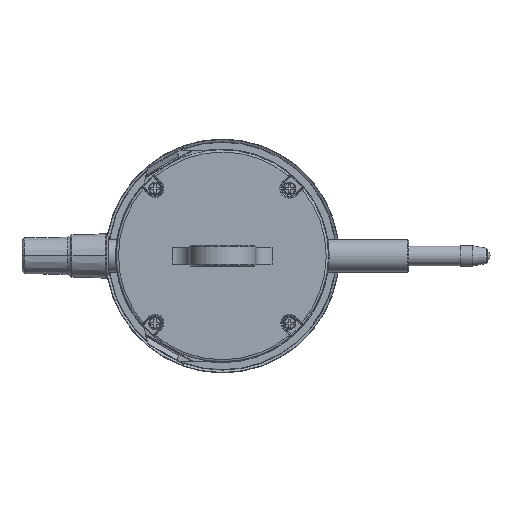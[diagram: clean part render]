
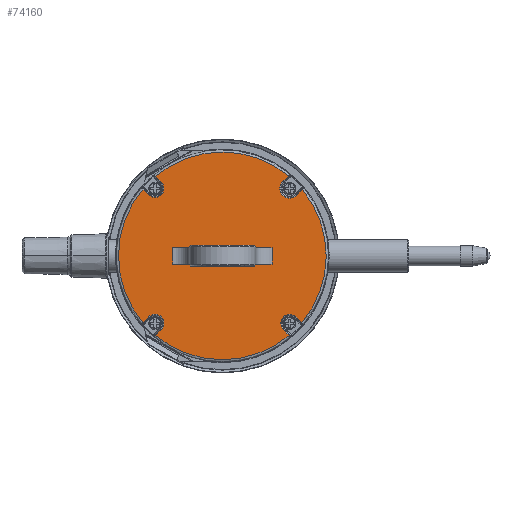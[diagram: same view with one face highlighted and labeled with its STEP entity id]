
A CAD part, top view. The second image highlights one B-rep face of the part: STEP entity #74160.
In plain terms, the highlighted planar face has unit normal (0, 0, 1).
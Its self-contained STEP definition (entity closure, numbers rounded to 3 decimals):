
#24450=CARTESIAN_POINT('',(-16.288,-19.359,2.1));
#24460=VERTEX_POINT('',#24450);
#24490=CARTESIAN_POINT('',(0.,0.,2.1));
#24500=DIRECTION('',(0.,0.,-1.));
#24510=DIRECTION('',(-1.,0.,0.));
#24520=AXIS2_PLACEMENT_3D('',#24490,#24500,#24510);
#24530=CIRCLE('',#24520,25.3);
#24540=CARTESIAN_POINT('',(16.134,-19.488,2.1));
#24550=VERTEX_POINT('',#24540);
#24560=EDGE_CURVE('',#24550,#24460,#24530,.T.);
#36170=CARTESIAN_POINT('',(-19.359,16.288,2.1));
#36180=VERTEX_POINT('',#36170);
#36210=CARTESIAN_POINT('',(0.,0.,2.1));
#36220=DIRECTION('',(0.,0.,-1.));
#36230=DIRECTION('',(-1.,0.,0.));
#36240=AXIS2_PLACEMENT_3D('',#36210,#36220,#36230);
#36250=CIRCLE('',#36240,25.3);
#36260=CARTESIAN_POINT('',(-19.359,-16.288,2.1));
#36270=VERTEX_POINT('',#36260);
#36280=EDGE_CURVE('',#36270,#36180,#36250,.T.);
#37110=CARTESIAN_POINT('',(-2.,12.1,2.1));
#37120=VERTEX_POINT('',#37110);
#37150=CARTESIAN_POINT('',(-2.,12.1,2.1));
#37160=DIRECTION('',(1.,0.,0.));
#37170=VECTOR('',#37160,1.);
#37180=LINE('',#37150,#37170);
#37190=CARTESIAN_POINT('',(2.,12.1,2.1));
#37200=VERTEX_POINT('',#37190);
#37210=EDGE_CURVE('',#37120,#37200,#37180,.T.);
#40620=CARTESIAN_POINT('',(-14.869,17.94,2.1));
#40630=VERTEX_POINT('',#40620);
#40820=CARTESIAN_POINT('',(-16.288,19.359,2.1));
#40830=VERTEX_POINT('',#40820);
#40860=CARTESIAN_POINT('',(0.,3.071,2.1));
#40870=DIRECTION('',(0.707,-0.707,0.));
#40880=VECTOR('',#40870,1.);
#40890=LINE('',#40860,#40880);
#40900=EDGE_CURVE('',#40830,#40630,#40890,.T.);
#43260=CARTESIAN_POINT('',(-2.5,0.,2.1));
#43270=DIRECTION('',(0.,1.,0.));
#43280=VECTOR('',#43270,1.);
#43290=LINE('',#43260,#43280);
#43300=CARTESIAN_POINT('',(-2.5,-7.8,2.1));
#43310=VERTEX_POINT('',#43300);
#43320=CARTESIAN_POINT('',(-2.5,7.8,2.1));
#43330=VERTEX_POINT('',#43320);
#43340=EDGE_CURVE('',#43310,#43330,#43290,.T.);
#45020=CARTESIAN_POINT('',(19.488,-16.134,2.1));
#45030=VERTEX_POINT('',#45020);
#45060=CARTESIAN_POINT('',(0.,0.,2.1));
#45070=DIRECTION('',(0.,0.,-1.));
#45080=DIRECTION('',(-1.,0.,0.));
#45090=AXIS2_PLACEMENT_3D('',#45060,#45070,#45080);
#45100=CIRCLE('',#45090,25.3);
#45110=CARTESIAN_POINT('',(19.359,16.288,2.1));
#45120=VERTEX_POINT('',#45110);
#45130=EDGE_CURVE('',#45120,#45030,#45100,.T.);
#45540=CARTESIAN_POINT('',(14.728,-18.082,2.1));
#45550=VERTEX_POINT('',#45540);
#45760=CARTESIAN_POINT('',(0.,-3.354,2.1));
#45770=DIRECTION('',(-0.707,0.707,0.));
#45780=VECTOR('',#45770,1.);
#45790=LINE('',#45760,#45780);
#45800=EDGE_CURVE('',#24550,#45550,#45790,.T.);
#53890=CARTESIAN_POINT('',(14.869,17.94,2.1));
#53900=VERTEX_POINT('',#53890);
#53990=CARTESIAN_POINT('',(17.94,14.869,2.1));
#54000=VERTEX_POINT('',#53990);
#54030=CARTESIAN_POINT('',(16.405,16.405,2.1));
#54040=DIRECTION('',(0.,0.,1.));
#54050=DIRECTION('',(-1.,0.,0.));
#54060=AXIS2_PLACEMENT_3D('',#54030,#54040,#54050);
#54070=CIRCLE('',#54060,2.172);
#54080=EDGE_CURVE('',#53900,#54000,#54070,.T.);
#61410=CARTESIAN_POINT('',(-14.869,-17.94,2.1));
#61420=VERTEX_POINT('',#61410);
#61450=CARTESIAN_POINT('',(0.,-3.071,2.1));
#61460=DIRECTION('',(-0.707,-0.707,0.));
#61470=VECTOR('',#61460,1.);
#61480=LINE('',#61450,#61470);
#61490=EDGE_CURVE('',#61420,#24460,#61480,.T.);
#61850=CARTESIAN_POINT('',(18.082,-14.728,2.1));
#61860=VERTEX_POINT('',#61850);
#61890=CARTESIAN_POINT('',(0.,3.354,2.1));
#61900=DIRECTION('',(0.707,-0.707,0.));
#61910=VECTOR('',#61900,1.);
#61920=LINE('',#61890,#61910);
#61930=EDGE_CURVE('',#61860,#45030,#61920,.T.);
#63430=CARTESIAN_POINT('',(0.,3.071,2.1));
#63440=DIRECTION('',(0.707,0.707,0.));
#63450=VECTOR('',#63440,1.);
#63460=LINE('',#63430,#63450);
#63470=CARTESIAN_POINT('',(16.288,19.359,2.1));
#63480=VERTEX_POINT('',#63470);
#63490=EDGE_CURVE('',#53900,#63480,#63460,.T.);
#69220=CARTESIAN_POINT('',(10.3,0.,2.1));
#69230=DIRECTION('',(0.707,0.707,0.));
#69240=VECTOR('',#69230,1.);
#69250=LINE('',#69220,#69240);
#69260=CARTESIAN_POINT('',(2.2,-8.1,2.1));
#69270=VERTEX_POINT('',#69260);
#69280=CARTESIAN_POINT('',(2.5,-7.8,2.1));
#69290=VERTEX_POINT('',#69280);
#69300=EDGE_CURVE('',#69270,#69290,#69250,.T.);
#72550=CARTESIAN_POINT('',(0.,0.,2.1));
#72560=DIRECTION('',(0.,0.,-1.));
#72570=DIRECTION('',(1.,0.,0.));
#72580=AXIS2_PLACEMENT_3D('',#72550,#72560,#72570);
#72590=PLANE('',#72580);
#72600=CARTESIAN_POINT('',(-10.3,0.,2.1));
#72610=DIRECTION('',(0.707,-0.707,0.));
#72620=VECTOR('',#72610,1.);
#72630=LINE('',#72600,#72620);
#72640=CARTESIAN_POINT('',(-2.2,-8.1,2.1));
#72650=VERTEX_POINT('',#72640);
#72660=EDGE_CURVE('',#43310,#72650,#72630,.T.);
#72670=ORIENTED_EDGE('',*,*,#72660,.F.);
#72680=CARTESIAN_POINT('',(0.,-8.1,2.1));
#72690=DIRECTION('',(1.,0.,0.));
#72700=VECTOR('',#72690,1.);
#72710=LINE('',#72680,#72700);
#72720=CARTESIAN_POINT('',(-2.,-8.1,2.1));
#72730=VERTEX_POINT('',#72720);
#72740=EDGE_CURVE('',#72650,#72730,#72710,.T.);
#72750=ORIENTED_EDGE('',*,*,#72740,.F.);
#72760=CARTESIAN_POINT('',(-2.,0.,2.1));
#72770=DIRECTION('',(0.,1.,0.));
#72780=VECTOR('',#72770,1.);
#72790=LINE('',#72760,#72780);
#72800=CARTESIAN_POINT('',(-2.,-12.1,2.1));
#72810=VERTEX_POINT('',#72800);
#72820=EDGE_CURVE('',#72810,#72730,#72790,.T.);
#72830=ORIENTED_EDGE('',*,*,#72820,.T.);
#72840=CARTESIAN_POINT('',(-2.,-12.1,2.1));
#72850=DIRECTION('',(1.,0.,0.));
#72860=VECTOR('',#72850,1.);
#72870=LINE('',#72840,#72860);
#72880=CARTESIAN_POINT('',(2.,-12.1,2.1));
#72890=VERTEX_POINT('',#72880);
#72900=EDGE_CURVE('',#72810,#72890,#72870,.T.);
#72910=ORIENTED_EDGE('',*,*,#72900,.F.);
#72920=CARTESIAN_POINT('',(2.,0.,2.1));
#72930=DIRECTION('',(0.,-1.,0.));
#72940=VECTOR('',#72930,1.);
#72950=LINE('',#72920,#72940);
#72960=CARTESIAN_POINT('',(2.,-8.1,2.1));
#72970=VERTEX_POINT('',#72960);
#72980=EDGE_CURVE('',#72970,#72890,#72950,.T.);
#72990=ORIENTED_EDGE('',*,*,#72980,.T.);
#73000=EDGE_CURVE('',#72970,#69270,#72710,.T.);
#73010=ORIENTED_EDGE('',*,*,#73000,.F.);
#73020=ORIENTED_EDGE('',*,*,#69300,.F.);
#73030=CARTESIAN_POINT('',(2.5,0.,2.1));
#73040=DIRECTION('',(0.,-1.,0.));
#73050=VECTOR('',#73040,1.);
#73060=LINE('',#73030,#73050);
#73070=CARTESIAN_POINT('',(2.5,7.8,2.1));
#73080=VERTEX_POINT('',#73070);
#73090=EDGE_CURVE('',#73080,#69290,#73060,.T.);
#73100=ORIENTED_EDGE('',*,*,#73090,.T.);
#73110=CARTESIAN_POINT('',(10.3,0.,2.1));
#73120=DIRECTION('',(-0.707,0.707,0.));
#73130=VECTOR('',#73120,1.);
#73140=LINE('',#73110,#73130);
#73150=CARTESIAN_POINT('',(2.2,8.1,2.1));
#73160=VERTEX_POINT('',#73150);
#73170=EDGE_CURVE('',#73080,#73160,#73140,.T.);
#73180=ORIENTED_EDGE('',*,*,#73170,.F.);
#73190=CARTESIAN_POINT('',(0.,8.1,2.1));
#73200=DIRECTION('',(-1.,0.,0.));
#73210=VECTOR('',#73200,1.);
#73220=LINE('',#73190,#73210);
#73230=CARTESIAN_POINT('',(2.,8.1,2.1));
#73240=VERTEX_POINT('',#73230);
#73250=EDGE_CURVE('',#73160,#73240,#73220,.T.);
#73260=ORIENTED_EDGE('',*,*,#73250,.F.);
#73270=CARTESIAN_POINT('',(2.,0.,2.1));
#73280=DIRECTION('',(0.,-1.,0.));
#73290=VECTOR('',#73280,1.);
#73300=LINE('',#73270,#73290);
#73310=EDGE_CURVE('',#37200,#73240,#73300,.T.);
#73320=ORIENTED_EDGE('',*,*,#73310,.T.);
#73330=ORIENTED_EDGE('',*,*,#37210,.T.);
#73340=CARTESIAN_POINT('',(-2.,0.,2.1));
#73350=DIRECTION('',(0.,1.,0.));
#73360=VECTOR('',#73350,1.);
#73370=LINE('',#73340,#73360);
#73380=CARTESIAN_POINT('',(-2.,8.1,2.1));
#73390=VERTEX_POINT('',#73380);
#73400=EDGE_CURVE('',#73390,#37120,#73370,.T.);
#73410=ORIENTED_EDGE('',*,*,#73400,.T.);
#73420=CARTESIAN_POINT('',(-2.2,8.1,2.1));
#73430=VERTEX_POINT('',#73420);
#73440=EDGE_CURVE('',#73390,#73430,#73220,.T.);
#73450=ORIENTED_EDGE('',*,*,#73440,.F.);
#73460=CARTESIAN_POINT('',(-10.3,0.,2.1));
#73470=DIRECTION('',(0.707,0.707,0.));
#73480=VECTOR('',#73470,1.);
#73490=LINE('',#73460,#73480);
#73500=EDGE_CURVE('',#43330,#73430,#73490,.T.);
#73510=ORIENTED_EDGE('',*,*,#73500,.T.);
#73520=ORIENTED_EDGE('',*,*,#43340,.T.);
#73530=EDGE_LOOP('',(#73520,#73510,#73450,#73410,#73330,#73320,#73260,
#73180,#73100,#73020,#73010,#72990,#72910,#72830,#72750,#72670));
#73540=FACE_BOUND('',#73530,.T.);
#73550=ORIENTED_EDGE('',*,*,#24560,.F.);
#73560=ORIENTED_EDGE('',*,*,#61490,.T.);
#73570=CARTESIAN_POINT('',(-16.405,-16.405,2.1));
#73580=DIRECTION('',(0.,0.,1.));
#73590=DIRECTION('',(-1.,0.,0.));
#73600=AXIS2_PLACEMENT_3D('',#73570,#73580,#73590);
#73610=CIRCLE('',#73600,2.172);
#73620=CARTESIAN_POINT('',(-17.94,-14.869,2.1));
#73630=VERTEX_POINT('',#73620);
#73640=EDGE_CURVE('',#61420,#73630,#73610,.T.);
#73650=ORIENTED_EDGE('',*,*,#73640,.F.);
#73660=CARTESIAN_POINT('',(0.,3.071,2.1));
#73670=DIRECTION('',(0.707,0.707,0.));
#73680=VECTOR('',#73670,1.);
#73690=LINE('',#73660,#73680);
#73700=EDGE_CURVE('',#36270,#73630,#73690,.T.);
#73710=ORIENTED_EDGE('',*,*,#73700,.T.);
#73720=ORIENTED_EDGE('',*,*,#36280,.F.);
#73730=CARTESIAN_POINT('',(0.,-3.071,2.1));
#73740=DIRECTION('',(-0.707,0.707,0.));
#73750=VECTOR('',#73740,1.);
#73760=LINE('',#73730,#73750);
#73770=CARTESIAN_POINT('',(-17.94,14.869,2.1));
#73780=VERTEX_POINT('',#73770);
#73790=EDGE_CURVE('',#73780,#36180,#73760,.T.);
#73800=ORIENTED_EDGE('',*,*,#73790,.T.);
#73810=CARTESIAN_POINT('',(-16.405,16.405,2.1));
#73820=DIRECTION('',(0.,0.,1.));
#73830=DIRECTION('',(-1.,0.,0.));
#73840=AXIS2_PLACEMENT_3D('',#73810,#73820,#73830);
#73850=CIRCLE('',#73840,2.172);
#73860=EDGE_CURVE('',#73780,#40630,#73850,.T.);
#73870=ORIENTED_EDGE('',*,*,#73860,.F.);
#73880=ORIENTED_EDGE('',*,*,#40900,.T.);
#73890=CARTESIAN_POINT('',(0.,0.,2.1));
#73900=DIRECTION('',(0.,0.,-1.));
#73910=DIRECTION('',(-1.,0.,0.));
#73920=AXIS2_PLACEMENT_3D('',#73890,#73900,#73910);
#73930=CIRCLE('',#73920,25.3);
#73940=EDGE_CURVE('',#40830,#63480,#73930,.T.);
#73950=ORIENTED_EDGE('',*,*,#73940,.F.);
#73960=ORIENTED_EDGE('',*,*,#63490,.T.);
#73970=ORIENTED_EDGE('',*,*,#54080,.F.);
#73980=CARTESIAN_POINT('',(0.,-3.071,2.1));
#73990=DIRECTION('',(-0.707,-0.707,0.));
#74000=VECTOR('',#73990,1.);
#74010=LINE('',#73980,#74000);
#74020=EDGE_CURVE('',#45120,#54000,#74010,.T.);
#74030=ORIENTED_EDGE('',*,*,#74020,.T.);
#74040=ORIENTED_EDGE('',*,*,#45130,.F.);
#74050=ORIENTED_EDGE('',*,*,#61930,.T.);
#74060=CARTESIAN_POINT('',(16.405,-16.405,2.1));
#74070=DIRECTION('',(0.,0.,1.));
#74080=DIRECTION('',(-1.,0.,0.));
#74090=AXIS2_PLACEMENT_3D('',#74060,#74070,#74080);
#74100=CIRCLE('',#74090,2.372);
#74110=EDGE_CURVE('',#61860,#45550,#74100,.T.);
#74120=ORIENTED_EDGE('',*,*,#74110,.F.);
#74130=ORIENTED_EDGE('',*,*,#45800,.T.);
#74140=EDGE_LOOP('',(#74130,#74120,#74050,#74040,#74030,#73970,#73960,
#73950,#73880,#73870,#73800,#73720,#73710,#73650,#73560,#73550));
#74150=FACE_OUTER_BOUND('',#74140,.T.);
#74160=ADVANCED_FACE('',(#73540,#74150),#72590,.F.);
